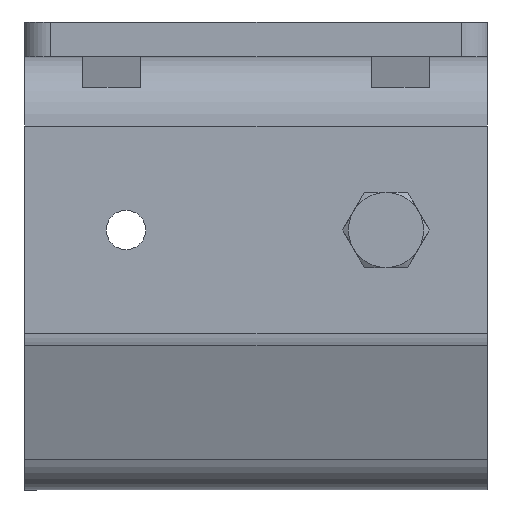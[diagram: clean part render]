
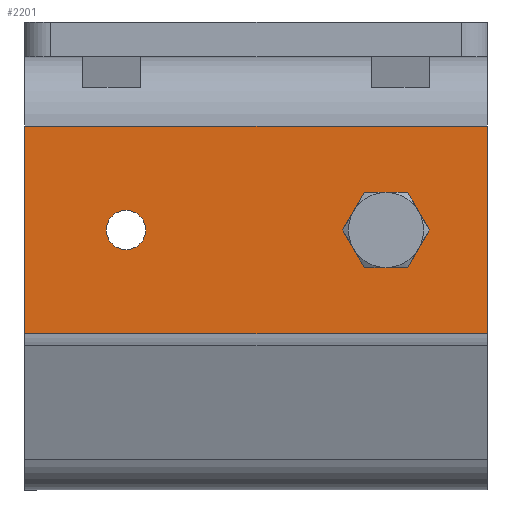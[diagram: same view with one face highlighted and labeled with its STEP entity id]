
A CAD part, left-side view. The second image highlights one B-rep face of the part: STEP entity #2201.
In plain terms, the highlighted planar face has unit normal (-1, 0, 0).
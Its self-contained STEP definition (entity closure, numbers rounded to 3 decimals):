
#73=FACE_BOUND('',#457,.T.);
#74=FACE_BOUND('',#458,.T.);
#279=FACE_OUTER_BOUND('',#456,.T.);
#456=EDGE_LOOP('',(#1835,#1836,#1837,#1838));
#457=EDGE_LOOP('',(#1839));
#458=EDGE_LOOP('',(#1840));
#595=CIRCLE('',#2415,3.4);
#597=CIRCLE('',#2418,3.324);
#709=LINE('',#3742,#869);
#737=LINE('',#3833,#897);
#740=LINE('',#3840,#900);
#744=LINE('',#3853,#904);
#869=VECTOR('',#2849,80.);
#897=VECTOR('',#2949,35.999);
#900=VECTOR('',#2956,80.);
#904=VECTOR('',#2976,35.999);
#1053=VERTEX_POINT('',#3727);
#1056=VERTEX_POINT('',#3735);
#1080=VERTEX_POINT('',#3824);
#1082=VERTEX_POINT('',#3829);
#1083=VERTEX_POINT('',#3832);
#1085=VERTEX_POINT('',#3839);
#1292=EDGE_CURVE('',#1056,#1053,#709,.T.);
#1331=EDGE_CURVE('',#1080,#1080,#595,.T.);
#1333=EDGE_CURVE('',#1082,#1082,#597,.T.);
#1334=EDGE_CURVE('',#1083,#1056,#737,.T.);
#1338=EDGE_CURVE('',#1085,#1083,#740,.T.);
#1345=EDGE_CURVE('',#1053,#1085,#744,.T.);
#1835=ORIENTED_EDGE('',*,*,#1292,.T.);
#1836=ORIENTED_EDGE('',*,*,#1345,.T.);
#1837=ORIENTED_EDGE('',*,*,#1338,.T.);
#1838=ORIENTED_EDGE('',*,*,#1334,.T.);
#1839=ORIENTED_EDGE('',*,*,#1333,.T.);
#1840=ORIENTED_EDGE('',*,*,#1331,.T.);
#2077=PLANE('',#2430);
#2201=ADVANCED_FACE('',(#279,#73,#74),#2077,.T.);
#2415=AXIS2_PLACEMENT_3D('',#3825,#2939,#2940);
#2418=AXIS2_PLACEMENT_3D('',#3830,#2945,#2946);
#2430=AXIS2_PLACEMENT_3D('',#3854,#2977,#2978);
#2849=DIRECTION('',(0.,1.,0.));
#2939=DIRECTION('center_axis',(1.,0.,0.));
#2940=DIRECTION('ref_axis',(0.,0.,
-1.));
#2945=DIRECTION('center_axis',(1.,0.,0.));
#2946=DIRECTION('ref_axis',(0.,0.,
1.));
#2949=DIRECTION('',(0.,0.,1.));
#2956=DIRECTION('',(0.,-1.,0.));
#2976=DIRECTION('',(0.,0.,-1.));
#2977=DIRECTION('center_axis',(-1.,0.,0.));
#2978=DIRECTION('ref_axis',(0.,0.,1.));
#3727=CARTESIAN_POINT('',(-40.,40.,-12.));
#3735=CARTESIAN_POINT('',(-40.,-40.,-12.));
#3742=CARTESIAN_POINT('',(-40.,20.,-12.));
#3824=CARTESIAN_POINT('',(-40.,22.5,-26.599));
#3825=CARTESIAN_POINT('Origin',(-40.,22.5,-29.999));
#3829=CARTESIAN_POINT('',(-40.,-22.5,-26.676));
#3830=CARTESIAN_POINT('Origin',(-40.,-22.5,-29.999));
#3832=CARTESIAN_POINT('',(-40.,-40.,-47.999));
#3833=CARTESIAN_POINT('',(-40.,-40.,-83.679));
#3839=CARTESIAN_POINT('',(-40.,40.,-47.999));
#3840=CARTESIAN_POINT('',(-40.,-20.,-47.999));
#3853=CARTESIAN_POINT('',(-40.,40.,143.68));
#3854=CARTESIAN_POINT('Origin',(-40.,0.,138.336));
